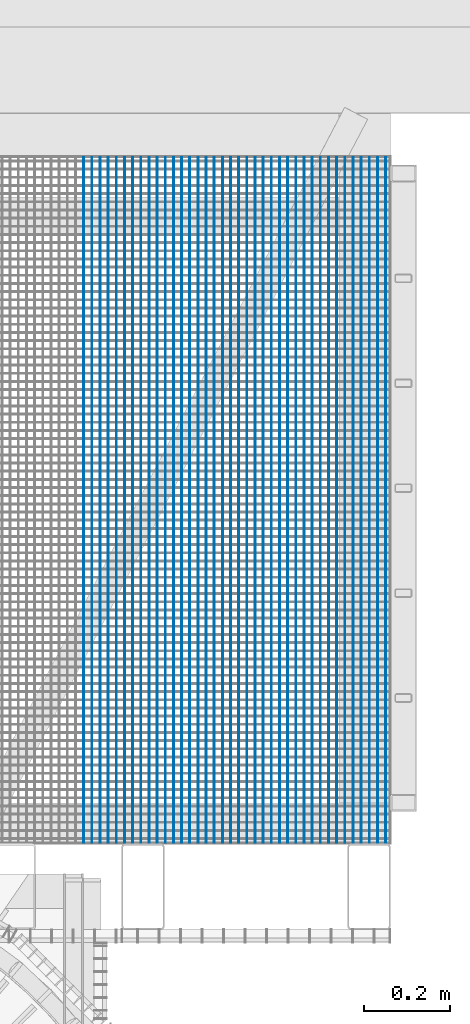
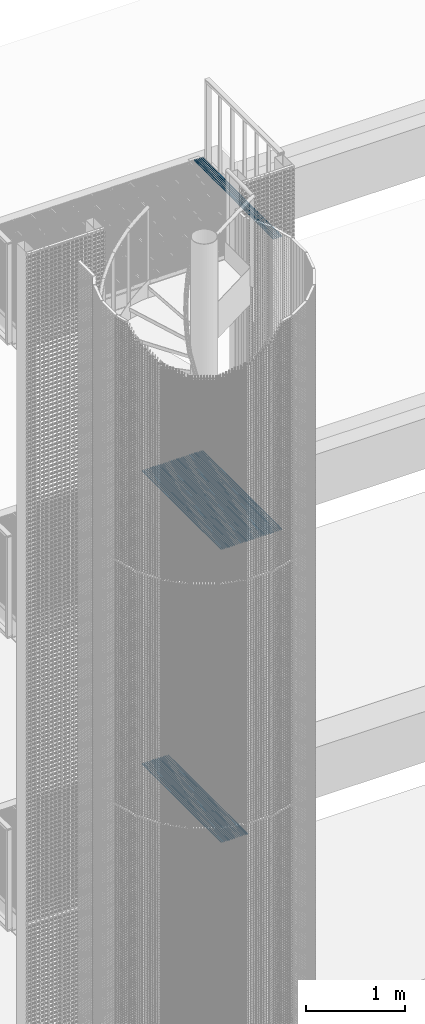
# One storey, part 101 of 1183: 61 beams, 3 elements without a shape of their own.
"""IFC2X3 building model written with IfcOpenShell, lengths in millimetres."""

from ifc_helpers import new_model, si_unit, frame, origin_with_axes, origin_2d_with_axis, place, context, subcontext, project, spatial, rectangle, extrude, material, type_object, element, aggregate, save


model = new_model("IFC2X3")

# Units and contexts
model_context = context("Model", 3, precision=1e-05, world=origin_with_axes())
body_context = subcontext(model_context, "Body", "Model", "MODEL_VIEW")
ifc_project = project(units=[si_unit("LENGTHUNIT", "METRE", prefix="MILLI"), si_unit("AREAUNIT", "SQUARE_METRE"), si_unit("VOLUMEUNIT", "CUBIC_METRE"), si_unit("MASSUNIT", "GRAM", prefix="KILO"), si_unit("TIMEUNIT", "SECOND"), si_unit("PLANEANGLEUNIT", "RADIAN"), si_unit("SOLIDANGLEUNIT", "STERADIAN"), si_unit("THERMODYNAMICTEMPERATUREUNIT", "DEGREE_CELSIUS"), si_unit("LUMINOUSINTENSITYUNIT", "LUMEN")], contexts=[model_context])

# Site, building, storey
site_placement = place(None, origin_with_axes())
site = spatial("IfcSite", under=ifc_project, at=site_placement, Name="Undefined", CompositionType="ELEMENT")
building_placement = place(site_placement, origin_with_axes())
building = spatial("IfcBuilding", under=site, at=building_placement, Name="Undefined", CompositionType="ELEMENT")
storey_placement = place(building_placement, origin_with_axes())
storey = spatial("IfcBuildingStorey", under=building, at=storey_placement, Name="Undefined", CompositionType="ELEMENT", Elevation=0.0)

# Assembly, beams
assembly_1_placement = place(storey_placement, origin_with_axes())
assembly_1 = element("IfcElementAssembly", 1, at=assembly_1_placement, inside=storey, Name="BORDURE", AssemblyPlace="NOTDEFINED", PredefinedType="NOTDEFINED")
ifc_material = material(Name="STEEL/S235JR")
beam_type = type_object("IfcBeamType", Name="PL2*10", PredefinedType="NOTDEFINED")
beam_1_placement = place(assembly_1_placement, frame((23044.1154247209, 1102.00942639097, 17285.0), z_axis=(0.0, 0.0, 1.0), x_axis=(-4.50599999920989e-06, 0.999999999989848, 0.0)))
beam_1 = element("IfcBeam", 2, at=beam_1_placement, type_object=beam_type, material=ifc_material, Name="ENTRETOISE", context=body_context, shape_type="SweptSolid", body=[
    extrude(rectangle(XDim=2.0, YDim=10.0, at=origin_2d_with_axis()), frame((1596.0000000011, -1.35186458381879e-18, -7.27595761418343e-12), z_axis=(-1.0, 0.0, 0.0), x_axis=(0.0, -1.0, 0.0)), (0.0, 0.0, 1.0), 1596.0),
])
beam_2_placement = place(assembly_1_placement, frame((23063.1154247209, 1102.00951990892, 17285.0), z_axis=(0.0, 0.0, 1.0), x_axis=(-4.50599999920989e-06, 0.999999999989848, 0.0)))
beam_2 = element("IfcBeam", 3, at=beam_2_placement, type_object=beam_type, material=ifc_material, Name="ENTRETOISE", context=body_context, shape_type="SweptSolid", body=[
    extrude(rectangle(XDim=2.0, YDim=10.0, at=origin_2d_with_axis()), frame((1596.0000000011, -1.35186458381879e-18, -7.27595761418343e-12), z_axis=(-1.0, 0.0, 0.0), x_axis=(0.0, -1.0, 0.0)), (0.0, 0.0, 1.0), 1596.0),
])
beam_3_placement = place(assembly_1_placement, frame((23082.1154247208, 1102.00961342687, 17285.0), z_axis=(0.0, 0.0, 1.0), x_axis=(-4.50599999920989e-06, 0.999999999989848, 0.0)))
beam_3 = element("IfcBeam", 4, at=beam_3_placement, type_object=beam_type, material=ifc_material, Name="ENTRETOISE", context=body_context, shape_type="SweptSolid", body=[
    extrude(rectangle(XDim=2.0, YDim=10.0, at=origin_2d_with_axis()), frame((1596.0000000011, -1.35186458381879e-18, -7.27595761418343e-12), z_axis=(-1.0, 0.0, 0.0), x_axis=(0.0, -1.0, 0.0)), (0.0, 0.0, 1.0), 1596.0),
])
beam_4_placement = place(assembly_1_placement, frame((23101.1154247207, 1102.00970694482, 17285.0), z_axis=(0.0, 0.0, 1.0), x_axis=(-4.50599999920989e-06, 0.999999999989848, 0.0)))
beam_4 = element("IfcBeam", 5, at=beam_4_placement, type_object=beam_type, material=ifc_material, Name="ENTRETOISE", context=body_context, shape_type="SweptSolid", body=[
    extrude(rectangle(XDim=2.0, YDim=10.0, at=origin_2d_with_axis()), frame((1596.0000000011, -1.35186458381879e-18, -7.27595761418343e-12), z_axis=(-1.0, 0.0, 0.0), x_axis=(0.0, -1.0, 0.0)), (0.0, 0.0, 1.0), 1596.0),
])
beam_5_placement = place(assembly_1_placement, frame((23120.1154247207, 1102.00980046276, 17285.0), z_axis=(0.0, 0.0, 1.0), x_axis=(-4.50599999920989e-06, 0.999999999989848, 0.0)))
beam_5 = element("IfcBeam", 6, at=beam_5_placement, type_object=beam_type, material=ifc_material, Name="ENTRETOISE", context=body_context, shape_type="SweptSolid", body=[
    extrude(rectangle(XDim=2.0, YDim=10.0, at=origin_2d_with_axis()), frame((1596.0000000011, -1.35186458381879e-18, -7.27595761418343e-12), z_axis=(-1.0, 0.0, 0.0), x_axis=(0.0, -1.0, 0.0)), (0.0, 0.0, 1.0), 1596.0),
])
beam_6_placement = place(assembly_1_placement, frame((23139.1154247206, 1102.00989398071, 17285.0), z_axis=(0.0, 0.0, 1.0), x_axis=(-4.50599999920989e-06, 0.999999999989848, 0.0)))
beam_6 = element("IfcBeam", 7, at=beam_6_placement, type_object=beam_type, material=ifc_material, Name="ENTRETOISE", context=body_context, shape_type="SweptSolid", body=[
    extrude(rectangle(XDim=2.0, YDim=10.0, at=origin_2d_with_axis()), frame((1596.0000000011, -1.35186458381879e-18, -7.27595761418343e-12), z_axis=(-1.0, 0.0, 0.0), x_axis=(0.0, -1.0, 0.0)), (0.0, 0.0, 1.0), 1596.0),
])
aggregate(assembly_1, [beam_1, beam_2, beam_3, beam_4, beam_5, beam_6])

assembly_2_placement = place(storey_placement, origin_with_axes())
assembly_2 = element("IfcElementAssembly", 8, at=assembly_2_placement, inside=storey, Name="BORDURE", AssemblyPlace="NOTDEFINED", PredefinedType="NOTDEFINED")
beam_7_placement = place(assembly_2_placement, frame((22436.1154247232, 1102.00643381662, 13685.0), z_axis=(0.0, 0.0, 1.0), x_axis=(-4.50599999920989e-06, 0.999999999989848, 0.0)))
beam_7 = element("IfcBeam", 9, at=beam_7_placement, type_object=beam_type, material=ifc_material, Name="ENTRETOISE", context=body_context, shape_type="SweptSolid", body=[
    extrude(rectangle(XDim=2.0, YDim=10.0, at=origin_2d_with_axis()), frame((1596.0000000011, -1.35186458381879e-18, -7.27595761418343e-12), z_axis=(-1.0, 0.0, 0.0), x_axis=(0.0, -1.0, 0.0)), (0.0, 0.0, 1.0), 1596.0),
])
beam_8_placement = place(assembly_2_placement, frame((22455.1154247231, 1102.00652733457, 13685.0), z_axis=(0.0, 0.0, 1.0), x_axis=(-4.50599999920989e-06, 0.999999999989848, 0.0)))
beam_8 = element("IfcBeam", 10, at=beam_8_placement, type_object=beam_type, material=ifc_material, Name="ENTRETOISE", context=body_context, shape_type="SweptSolid", body=[
    extrude(rectangle(XDim=2.0, YDim=10.0, at=origin_2d_with_axis()), frame((1596.0000000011, -1.35186458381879e-18, -7.27595761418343e-12), z_axis=(-1.0, 0.0, 0.0), x_axis=(0.0, -1.0, 0.0)), (0.0, 0.0, 1.0), 1596.0),
])
beam_9_placement = place(assembly_2_placement, frame((22474.1154247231, 1102.00662085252, 13685.0), z_axis=(0.0, 0.0, 1.0), x_axis=(-4.50599999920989e-06, 0.999999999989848, 0.0)))
beam_9 = element("IfcBeam", 11, at=beam_9_placement, type_object=beam_type, material=ifc_material, Name="ENTRETOISE", context=body_context, shape_type="SweptSolid", body=[
    extrude(rectangle(XDim=2.0, YDim=10.0, at=origin_2d_with_axis()), frame((1596.0000000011, -1.35186458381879e-18, -7.27595761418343e-12), z_axis=(-1.0, 0.0, 0.0), x_axis=(0.0, -1.0, 0.0)), (0.0, 0.0, 1.0), 1596.0),
])
beam_10_placement = place(assembly_2_placement, frame((22493.115424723, 1102.00671437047, 13685.0), z_axis=(0.0, 0.0, 1.0), x_axis=(-4.50599999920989e-06, 0.999999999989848, 0.0)))
beam_10 = element("IfcBeam", 12, at=beam_10_placement, type_object=beam_type, material=ifc_material, Name="ENTRETOISE", context=body_context, shape_type="SweptSolid", body=[
    extrude(rectangle(XDim=2.0, YDim=10.0, at=origin_2d_with_axis()), frame((1596.0000000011, -1.35186458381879e-18, -7.27595761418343e-12), z_axis=(-1.0, 0.0, 0.0), x_axis=(0.0, -1.0, 0.0)), (0.0, 0.0, 1.0), 1596.0),
])
beam_11_placement = place(assembly_2_placement, frame((22512.1154247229, 1102.00680788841, 13685.0), z_axis=(0.0, 0.0, 1.0), x_axis=(-4.50599999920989e-06, 0.999999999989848, 0.0)))
beam_11 = element("IfcBeam", 13, at=beam_11_placement, type_object=beam_type, material=ifc_material, Name="ENTRETOISE", context=body_context, shape_type="SweptSolid", body=[
    extrude(rectangle(XDim=2.0, YDim=10.0, at=origin_2d_with_axis()), frame((1596.0000000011, -1.35186458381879e-18, -7.27595761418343e-12), z_axis=(-1.0, 0.0, 0.0), x_axis=(0.0, -1.0, 0.0)), (0.0, 0.0, 1.0), 1596.0),
])
beam_12_placement = place(assembly_2_placement, frame((22531.1154247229, 1102.00690140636, 13685.0), z_axis=(0.0, 0.0, 1.0), x_axis=(-4.50599999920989e-06, 0.999999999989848, 0.0)))
beam_12 = element("IfcBeam", 14, at=beam_12_placement, type_object=beam_type, material=ifc_material, Name="ENTRETOISE", context=body_context, shape_type="SweptSolid", body=[
    extrude(rectangle(XDim=2.0, YDim=10.0, at=origin_2d_with_axis()), frame((1596.0000000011, -1.35186458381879e-18, -7.27595761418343e-12), z_axis=(-1.0, 0.0, 0.0), x_axis=(0.0, -1.0, 0.0)), (0.0, 0.0, 1.0), 1596.0),
])
beam_13_placement = place(assembly_2_placement, frame((22550.1154247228, 1102.00699492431, 13685.0), z_axis=(0.0, 0.0, 1.0), x_axis=(-4.50599999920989e-06, 0.999999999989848, 0.0)))
beam_13 = element("IfcBeam", 15, at=beam_13_placement, type_object=beam_type, material=ifc_material, Name="ENTRETOISE", context=body_context, shape_type="SweptSolid", body=[
    extrude(rectangle(XDim=2.0, YDim=10.0, at=origin_2d_with_axis()), frame((1596.0000000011, -1.35186458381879e-18, -7.27595761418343e-12), z_axis=(-1.0, 0.0, 0.0), x_axis=(0.0, -1.0, 0.0)), (0.0, 0.0, 1.0), 1596.0),
])
beam_14_placement = place(assembly_2_placement, frame((22569.1154247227, 1102.00708844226, 13685.0), z_axis=(0.0, 0.0, 1.0), x_axis=(-4.50599999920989e-06, 0.999999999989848, 0.0)))
beam_14 = element("IfcBeam", 16, at=beam_14_placement, type_object=beam_type, material=ifc_material, Name="ENTRETOISE", context=body_context, shape_type="SweptSolid", body=[
    extrude(rectangle(XDim=2.0, YDim=10.0, at=origin_2d_with_axis()), frame((1596.0000000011, -1.35186458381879e-18, -7.27595761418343e-12), z_axis=(-1.0, 0.0, 0.0), x_axis=(0.0, -1.0, 0.0)), (0.0, 0.0, 1.0), 1596.0),
])
beam_15_placement = place(assembly_2_placement, frame((22588.1154247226, 1102.00718196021, 13685.0), z_axis=(0.0, 0.0, 1.0), x_axis=(-4.50599999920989e-06, 0.999999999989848, 0.0)))
beam_15 = element("IfcBeam", 17, at=beam_15_placement, type_object=beam_type, material=ifc_material, Name="ENTRETOISE", context=body_context, shape_type="SweptSolid", body=[
    extrude(rectangle(XDim=2.0, YDim=10.0, at=origin_2d_with_axis()), frame((1596.0000000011, -1.35186458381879e-18, -7.27595761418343e-12), z_axis=(-1.0, 0.0, 0.0), x_axis=(0.0, -1.0, 0.0)), (0.0, 0.0, 1.0), 1596.0),
])
beam_16_placement = place(assembly_2_placement, frame((22607.1154247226, 1102.00727547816, 13685.0), z_axis=(0.0, 0.0, 1.0), x_axis=(-4.50599999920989e-06, 0.999999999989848, 0.0)))
beam_16 = element("IfcBeam", 18, at=beam_16_placement, type_object=beam_type, material=ifc_material, Name="ENTRETOISE", context=body_context, shape_type="SweptSolid", body=[
    extrude(rectangle(XDim=2.0, YDim=10.0, at=origin_2d_with_axis()), frame((1596.0000000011, -1.35186458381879e-18, -7.27595761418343e-12), z_axis=(-1.0, 0.0, 0.0), x_axis=(0.0, -1.0, 0.0)), (0.0, 0.0, 1.0), 1596.0),
])
beam_17_placement = place(assembly_2_placement, frame((22626.1154247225, 1102.00736899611, 13685.0), z_axis=(0.0, 0.0, 1.0), x_axis=(-4.50599999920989e-06, 0.999999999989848, 0.0)))
beam_17 = element("IfcBeam", 19, at=beam_17_placement, type_object=beam_type, material=ifc_material, Name="ENTRETOISE", context=body_context, shape_type="SweptSolid", body=[
    extrude(rectangle(XDim=2.0, YDim=10.0, at=origin_2d_with_axis()), frame((1596.0000000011, -1.35186458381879e-18, -7.27595761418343e-12), z_axis=(-1.0, 0.0, 0.0), x_axis=(0.0, -1.0, 0.0)), (0.0, 0.0, 1.0), 1596.0),
])
beam_18_placement = place(assembly_2_placement, frame((22645.1154247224, 1102.00746251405, 13685.0), z_axis=(0.0, 0.0, 1.0), x_axis=(-4.50599999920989e-06, 0.999999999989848, 0.0)))
beam_18 = element("IfcBeam", 20, at=beam_18_placement, type_object=beam_type, material=ifc_material, Name="ENTRETOISE", context=body_context, shape_type="SweptSolid", body=[
    extrude(rectangle(XDim=2.0, YDim=10.0, at=origin_2d_with_axis()), frame((1596.0000000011, -1.35186458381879e-18, -7.27595761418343e-12), z_axis=(-1.0, 0.0, 0.0), x_axis=(0.0, -1.0, 0.0)), (0.0, 0.0, 1.0), 1596.0),
])
beam_19_placement = place(assembly_2_placement, frame((22664.1154247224, 1102.007556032, 13685.0), z_axis=(0.0, 0.0, 1.0), x_axis=(-4.50599999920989e-06, 0.999999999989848, 0.0)))
beam_19 = element("IfcBeam", 21, at=beam_19_placement, type_object=beam_type, material=ifc_material, Name="ENTRETOISE", context=body_context, shape_type="SweptSolid", body=[
    extrude(rectangle(XDim=2.0, YDim=10.0, at=origin_2d_with_axis()), frame((1596.0000000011, -1.35186458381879e-18, -7.27595761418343e-12), z_axis=(-1.0, 0.0, 0.0), x_axis=(0.0, -1.0, 0.0)), (0.0, 0.0, 1.0), 1596.0),
])
beam_20_placement = place(assembly_2_placement, frame((22683.1154247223, 1102.00764954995, 13685.0), z_axis=(0.0, 0.0, 1.0), x_axis=(-4.50599999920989e-06, 0.999999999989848, 0.0)))
beam_20 = element("IfcBeam", 22, at=beam_20_placement, type_object=beam_type, material=ifc_material, Name="ENTRETOISE", context=body_context, shape_type="SweptSolid", body=[
    extrude(rectangle(XDim=2.0, YDim=10.0, at=origin_2d_with_axis()), frame((1596.0000000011, -1.35186458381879e-18, -7.27595761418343e-12), z_axis=(-1.0, 0.0, 0.0), x_axis=(0.0, -1.0, 0.0)), (0.0, 0.0, 1.0), 1596.0),
])
beam_21_placement = place(assembly_2_placement, frame((22702.1154247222, 1102.0077430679, 13685.0), z_axis=(0.0, 0.0, 1.0), x_axis=(-4.50599999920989e-06, 0.999999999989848, 0.0)))
beam_21 = element("IfcBeam", 23, at=beam_21_placement, type_object=beam_type, material=ifc_material, Name="ENTRETOISE", context=body_context, shape_type="SweptSolid", body=[
    extrude(rectangle(XDim=2.0, YDim=10.0, at=origin_2d_with_axis()), frame((1596.0000000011, -1.35186458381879e-18, -7.27595761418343e-12), z_axis=(-1.0, 0.0, 0.0), x_axis=(0.0, -1.0, 0.0)), (0.0, 0.0, 1.0), 1596.0),
])
beam_22_placement = place(assembly_2_placement, frame((22721.1154247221, 1102.00783658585, 13685.0), z_axis=(0.0, 0.0, 1.0), x_axis=(-4.50599999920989e-06, 0.999999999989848, 0.0)))
beam_22 = element("IfcBeam", 24, at=beam_22_placement, type_object=beam_type, material=ifc_material, Name="ENTRETOISE", context=body_context, shape_type="SweptSolid", body=[
    extrude(rectangle(XDim=2.0, YDim=10.0, at=origin_2d_with_axis()), frame((1596.0000000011, -1.35186458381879e-18, -7.27595761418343e-12), z_axis=(-1.0, 0.0, 0.0), x_axis=(0.0, -1.0, 0.0)), (0.0, 0.0, 1.0), 1596.0),
])
beam_23_placement = place(assembly_2_placement, frame((22740.1154247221, 1102.0079301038, 13685.0), z_axis=(0.0, 0.0, 1.0), x_axis=(-4.50599999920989e-06, 0.999999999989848, 0.0)))
beam_23 = element("IfcBeam", 25, at=beam_23_placement, type_object=beam_type, material=ifc_material, Name="ENTRETOISE", context=body_context, shape_type="SweptSolid", body=[
    extrude(rectangle(XDim=2.0, YDim=10.0, at=origin_2d_with_axis()), frame((1596.0000000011, -1.35186458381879e-18, -7.27595761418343e-12), z_axis=(-1.0, 0.0, 0.0), x_axis=(0.0, -1.0, 0.0)), (0.0, 0.0, 1.0), 1596.0),
])
beam_24_placement = place(assembly_2_placement, frame((22759.115424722, 1102.00802362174, 13685.0), z_axis=(0.0, 0.0, 1.0), x_axis=(-4.50599999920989e-06, 0.999999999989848, 0.0)))
beam_24 = element("IfcBeam", 26, at=beam_24_placement, type_object=beam_type, material=ifc_material, Name="ENTRETOISE", context=body_context, shape_type="SweptSolid", body=[
    extrude(rectangle(XDim=2.0, YDim=10.0, at=origin_2d_with_axis()), frame((1596.0000000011, -1.35186458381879e-18, -7.27595761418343e-12), z_axis=(-1.0, 0.0, 0.0), x_axis=(0.0, -1.0, 0.0)), (0.0, 0.0, 1.0), 1596.0),
])
beam_25_placement = place(assembly_2_placement, frame((22778.1154247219, 1102.00811713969, 13685.0), z_axis=(0.0, 0.0, 1.0), x_axis=(-4.50599999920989e-06, 0.999999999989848, 0.0)))
beam_25 = element("IfcBeam", 27, at=beam_25_placement, type_object=beam_type, material=ifc_material, Name="ENTRETOISE", context=body_context, shape_type="SweptSolid", body=[
    extrude(rectangle(XDim=2.0, YDim=10.0, at=origin_2d_with_axis()), frame((1596.0000000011, -1.35186458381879e-18, -7.27595761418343e-12), z_axis=(-1.0, 0.0, 0.0), x_axis=(0.0, -1.0, 0.0)), (0.0, 0.0, 1.0), 1596.0),
])
beam_26_placement = place(assembly_2_placement, frame((22797.1154247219, 1102.00821065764, 13685.0), z_axis=(0.0, 0.0, 1.0), x_axis=(-4.50599999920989e-06, 0.999999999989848, 0.0)))
beam_26 = element("IfcBeam", 28, at=beam_26_placement, type_object=beam_type, material=ifc_material, Name="ENTRETOISE", context=body_context, shape_type="SweptSolid", body=[
    extrude(rectangle(XDim=2.0, YDim=10.0, at=origin_2d_with_axis()), frame((1596.0000000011, -1.35186458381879e-18, -7.27595761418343e-12), z_axis=(-1.0, 0.0, 0.0), x_axis=(0.0, -1.0, 0.0)), (0.0, 0.0, 1.0), 1596.0),
])
beam_27_placement = place(assembly_2_placement, frame((22816.1154247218, 1102.00830417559, 13685.0), z_axis=(0.0, 0.0, 1.0), x_axis=(-4.50599999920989e-06, 0.999999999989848, 0.0)))
beam_27 = element("IfcBeam", 29, at=beam_27_placement, type_object=beam_type, material=ifc_material, Name="ENTRETOISE", context=body_context, shape_type="SweptSolid", body=[
    extrude(rectangle(XDim=2.0, YDim=10.0, at=origin_2d_with_axis()), frame((1596.0000000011, -1.35186458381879e-18, -7.27595761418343e-12), z_axis=(-1.0, 0.0, 0.0), x_axis=(0.0, -1.0, 0.0)), (0.0, 0.0, 1.0), 1596.0),
])
beam_28_placement = place(assembly_2_placement, frame((22835.1154247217, 1102.00839769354, 13685.0), z_axis=(0.0, 0.0, 1.0), x_axis=(-4.50599999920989e-06, 0.999999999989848, 0.0)))
beam_28 = element("IfcBeam", 30, at=beam_28_placement, type_object=beam_type, material=ifc_material, Name="ENTRETOISE", context=body_context, shape_type="SweptSolid", body=[
    extrude(rectangle(XDim=2.0, YDim=10.0, at=origin_2d_with_axis()), frame((1596.0000000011, -1.35186458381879e-18, -7.27595761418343e-12), z_axis=(-1.0, 0.0, 0.0), x_axis=(0.0, -1.0, 0.0)), (0.0, 0.0, 1.0), 1596.0),
])
beam_29_placement = place(assembly_2_placement, frame((22854.1154247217, 1102.00849121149, 13685.0), z_axis=(0.0, 0.0, 1.0), x_axis=(-4.50599999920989e-06, 0.999999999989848, 0.0)))
beam_29 = element("IfcBeam", 31, at=beam_29_placement, type_object=beam_type, material=ifc_material, Name="ENTRETOISE", context=body_context, shape_type="SweptSolid", body=[
    extrude(rectangle(XDim=2.0, YDim=10.0, at=origin_2d_with_axis()), frame((1596.0000000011, -1.35186458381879e-18, -7.27595761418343e-12), z_axis=(-1.0, 0.0, 0.0), x_axis=(0.0, -1.0, 0.0)), (0.0, 0.0, 1.0), 1596.0),
])
beam_30_placement = place(assembly_2_placement, frame((22873.1154247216, 1102.00858472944, 13685.0), z_axis=(0.0, 0.0, 1.0), x_axis=(-4.50599999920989e-06, 0.999999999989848, 0.0)))
beam_30 = element("IfcBeam", 32, at=beam_30_placement, type_object=beam_type, material=ifc_material, Name="ENTRETOISE", context=body_context, shape_type="SweptSolid", body=[
    extrude(rectangle(XDim=2.0, YDim=10.0, at=origin_2d_with_axis()), frame((1596.0000000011, -1.35186458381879e-18, -7.27595761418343e-12), z_axis=(-1.0, 0.0, 0.0), x_axis=(0.0, -1.0, 0.0)), (0.0, 0.0, 1.0), 1596.0),
])
beam_31_placement = place(assembly_2_placement, frame((22892.1154247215, 1102.00867824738, 13685.0), z_axis=(0.0, 0.0, 1.0), x_axis=(-4.50599999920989e-06, 0.999999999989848, 0.0)))
beam_31 = element("IfcBeam", 33, at=beam_31_placement, type_object=beam_type, material=ifc_material, Name="ENTRETOISE", context=body_context, shape_type="SweptSolid", body=[
    extrude(rectangle(XDim=2.0, YDim=10.0, at=origin_2d_with_axis()), frame((1596.0000000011, -1.35186458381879e-18, -7.27595761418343e-12), z_axis=(-1.0, 0.0, 0.0), x_axis=(0.0, -1.0, 0.0)), (0.0, 0.0, 1.0), 1596.0),
])
beam_32_placement = place(assembly_2_placement, frame((22911.1154247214, 1102.00877176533, 13685.0), z_axis=(0.0, 0.0, 1.0), x_axis=(-4.50599999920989e-06, 0.999999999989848, 0.0)))
beam_32 = element("IfcBeam", 34, at=beam_32_placement, type_object=beam_type, material=ifc_material, Name="ENTRETOISE", context=body_context, shape_type="SweptSolid", body=[
    extrude(rectangle(XDim=2.0, YDim=10.0, at=origin_2d_with_axis()), frame((1596.0000000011, -1.35186458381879e-18, -7.27595761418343e-12), z_axis=(-1.0, 0.0, 0.0), x_axis=(0.0, -1.0, 0.0)), (0.0, 0.0, 1.0), 1596.0),
])
beam_33_placement = place(assembly_2_placement, frame((22930.1154247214, 1102.00886528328, 13685.0), z_axis=(0.0, 0.0, 1.0), x_axis=(-4.50599999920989e-06, 0.999999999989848, 0.0)))
beam_33 = element("IfcBeam", 35, at=beam_33_placement, type_object=beam_type, material=ifc_material, Name="ENTRETOISE", context=body_context, shape_type="SweptSolid", body=[
    extrude(rectangle(XDim=2.0, YDim=10.0, at=origin_2d_with_axis()), frame((1596.0000000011, -1.35186458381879e-18, -7.27595761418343e-12), z_axis=(-1.0, 0.0, 0.0), x_axis=(0.0, -1.0, 0.0)), (0.0, 0.0, 1.0), 1596.0),
])
beam_34_placement = place(assembly_2_placement, frame((22949.1154247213, 1102.00895880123, 13685.0), z_axis=(0.0, 0.0, 1.0), x_axis=(-4.50599999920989e-06, 0.999999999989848, 0.0)))
beam_34 = element("IfcBeam", 36, at=beam_34_placement, type_object=beam_type, material=ifc_material, Name="ENTRETOISE", context=body_context, shape_type="SweptSolid", body=[
    extrude(rectangle(XDim=2.0, YDim=10.0, at=origin_2d_with_axis()), frame((1596.0000000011, -1.35186458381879e-18, -7.27595761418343e-12), z_axis=(-1.0, 0.0, 0.0), x_axis=(0.0, -1.0, 0.0)), (0.0, 0.0, 1.0), 1596.0),
])
beam_35_placement = place(assembly_2_placement, frame((22968.1154247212, 1102.00905231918, 13685.0), z_axis=(0.0, 0.0, 1.0), x_axis=(-4.50599999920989e-06, 0.999999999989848, 0.0)))
beam_35 = element("IfcBeam", 37, at=beam_35_placement, type_object=beam_type, material=ifc_material, Name="ENTRETOISE", context=body_context, shape_type="SweptSolid", body=[
    extrude(rectangle(XDim=2.0, YDim=10.0, at=origin_2d_with_axis()), frame((1596.0000000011, -1.35186458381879e-18, -7.27595761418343e-12), z_axis=(-1.0, 0.0, 0.0), x_axis=(0.0, -1.0, 0.0)), (0.0, 0.0, 1.0), 1596.0),
])
beam_36_placement = place(assembly_2_placement, frame((22987.1154247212, 1102.00914583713, 13685.0), z_axis=(0.0, 0.0, 1.0), x_axis=(-4.50599999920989e-06, 0.999999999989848, 0.0)))
beam_36 = element("IfcBeam", 38, at=beam_36_placement, type_object=beam_type, material=ifc_material, Name="ENTRETOISE", context=body_context, shape_type="SweptSolid", body=[
    extrude(rectangle(XDim=2.0, YDim=10.0, at=origin_2d_with_axis()), frame((1596.0000000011, -1.35186458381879e-18, -7.27595761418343e-12), z_axis=(-1.0, 0.0, 0.0), x_axis=(0.0, -1.0, 0.0)), (0.0, 0.0, 1.0), 1596.0),
])
beam_37_placement = place(assembly_2_placement, frame((23006.1154247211, 1102.00923935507, 13685.0), z_axis=(0.0, 0.0, 1.0), x_axis=(-4.50599999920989e-06, 0.999999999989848, 0.0)))
beam_37 = element("IfcBeam", 39, at=beam_37_placement, type_object=beam_type, material=ifc_material, Name="ENTRETOISE", context=body_context, shape_type="SweptSolid", body=[
    extrude(rectangle(XDim=2.0, YDim=10.0, at=origin_2d_with_axis()), frame((1596.0000000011, -1.35186458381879e-18, -7.27595761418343e-12), z_axis=(-1.0, 0.0, 0.0), x_axis=(0.0, -1.0, 0.0)), (0.0, 0.0, 1.0), 1596.0),
])
beam_38_placement = place(assembly_2_placement, frame((23025.115424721, 1102.00933287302, 13685.0), z_axis=(0.0, 0.0, 1.0), x_axis=(-4.50599999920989e-06, 0.999999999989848, 0.0)))
beam_38 = element("IfcBeam", 40, at=beam_38_placement, type_object=beam_type, material=ifc_material, Name="ENTRETOISE", context=body_context, shape_type="SweptSolid", body=[
    extrude(rectangle(XDim=2.0, YDim=10.0, at=origin_2d_with_axis()), frame((1596.0000000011, -1.35186458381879e-18, -7.27595761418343e-12), z_axis=(-1.0, 0.0, 0.0), x_axis=(0.0, -1.0, 0.0)), (0.0, 0.0, 1.0), 1596.0),
])
beam_39_placement = place(assembly_2_placement, frame((23044.1154247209, 1102.00942639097, 13685.0), z_axis=(0.0, 0.0, 1.0), x_axis=(-4.50599999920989e-06, 0.999999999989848, 0.0)))
beam_39 = element("IfcBeam", 41, at=beam_39_placement, type_object=beam_type, material=ifc_material, Name="ENTRETOISE", context=body_context, shape_type="SweptSolid", body=[
    extrude(rectangle(XDim=2.0, YDim=10.0, at=origin_2d_with_axis()), frame((1596.0000000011, -1.35186458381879e-18, -7.27595761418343e-12), z_axis=(-1.0, 0.0, 0.0), x_axis=(0.0, -1.0, 0.0)), (0.0, 0.0, 1.0), 1596.0),
])
beam_40_placement = place(assembly_2_placement, frame((23063.1154247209, 1102.00951990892, 13685.0), z_axis=(0.0, 0.0, 1.0), x_axis=(-4.50599999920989e-06, 0.999999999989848, 0.0)))
beam_40 = element("IfcBeam", 42, at=beam_40_placement, type_object=beam_type, material=ifc_material, Name="ENTRETOISE", context=body_context, shape_type="SweptSolid", body=[
    extrude(rectangle(XDim=2.0, YDim=10.0, at=origin_2d_with_axis()), frame((1596.0000000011, -1.35186458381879e-18, -7.27595761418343e-12), z_axis=(-1.0, 0.0, 0.0), x_axis=(0.0, -1.0, 0.0)), (0.0, 0.0, 1.0), 1596.0),
])
beam_41_placement = place(assembly_2_placement, frame((23082.1154247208, 1102.00961342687, 13685.0), z_axis=(0.0, 0.0, 1.0), x_axis=(-4.50599999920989e-06, 0.999999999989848, 0.0)))
beam_41 = element("IfcBeam", 43, at=beam_41_placement, type_object=beam_type, material=ifc_material, Name="ENTRETOISE", context=body_context, shape_type="SweptSolid", body=[
    extrude(rectangle(XDim=2.0, YDim=10.0, at=origin_2d_with_axis()), frame((1596.0000000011, -1.35186458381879e-18, -7.27595761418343e-12), z_axis=(-1.0, 0.0, 0.0), x_axis=(0.0, -1.0, 0.0)), (0.0, 0.0, 1.0), 1596.0),
])
beam_42_placement = place(assembly_2_placement, frame((23101.1154247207, 1102.00970694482, 13685.0), z_axis=(0.0, 0.0, 1.0), x_axis=(-4.50599999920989e-06, 0.999999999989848, 0.0)))
beam_42 = element("IfcBeam", 44, at=beam_42_placement, type_object=beam_type, material=ifc_material, Name="ENTRETOISE", context=body_context, shape_type="SweptSolid", body=[
    extrude(rectangle(XDim=2.0, YDim=10.0, at=origin_2d_with_axis()), frame((1596.0000000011, -1.35186458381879e-18, -7.27595761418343e-12), z_axis=(-1.0, 0.0, 0.0), x_axis=(0.0, -1.0, 0.0)), (0.0, 0.0, 1.0), 1596.0),
])
beam_43_placement = place(assembly_2_placement, frame((23120.1154247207, 1102.00980046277, 13685.0), z_axis=(0.0, 0.0, 1.0), x_axis=(-4.50599999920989e-06, 0.999999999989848, 0.0)))
beam_43 = element("IfcBeam", 45, at=beam_43_placement, type_object=beam_type, material=ifc_material, Name="ENTRETOISE", context=body_context, shape_type="SweptSolid", body=[
    extrude(rectangle(XDim=2.0, YDim=10.0, at=origin_2d_with_axis()), frame((1596.0000000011, -1.35186458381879e-18, -7.27595761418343e-12), z_axis=(-1.0, 0.0, 0.0), x_axis=(0.0, -1.0, 0.0)), (0.0, 0.0, 1.0), 1596.0),
])
beam_44_placement = place(assembly_2_placement, frame((23139.1154247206, 1102.00989398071, 13685.0), z_axis=(0.0, 0.0, 1.0), x_axis=(-4.50599999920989e-06, 0.999999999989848, 0.0)))
beam_44 = element("IfcBeam", 46, at=beam_44_placement, type_object=beam_type, material=ifc_material, Name="ENTRETOISE", context=body_context, shape_type="SweptSolid", body=[
    extrude(rectangle(XDim=2.0, YDim=10.0, at=origin_2d_with_axis()), frame((1596.0000000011, -1.35186458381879e-18, -7.27595761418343e-12), z_axis=(-1.0, 0.0, 0.0), x_axis=(0.0, -1.0, 0.0)), (0.0, 0.0, 1.0), 1596.0),
])
aggregate(assembly_2, [beam_7, beam_8, beam_9, beam_10, beam_11, beam_12, beam_13, beam_14, beam_15, beam_16, beam_17, beam_18, beam_19, beam_20, beam_21, beam_22, beam_23, beam_24, beam_25, beam_26, beam_27, beam_28, beam_29, beam_30, beam_31, beam_32, beam_33, beam_34, beam_35, beam_36, beam_37, beam_38, beam_39, beam_40, beam_41, beam_42, beam_43, beam_44])

assembly_3_placement = place(storey_placement, origin_with_axes())
assembly_3 = element("IfcElementAssembly", 47, at=assembly_3_placement, inside=storey, Name="BORDURE", AssemblyPlace="NOTDEFINED", PredefinedType="NOTDEFINED")
beam_45_placement = place(assembly_3_placement, frame((22436.1154247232, 1102.00643381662, 10085.0), z_axis=(0.0, 0.0, 1.0), x_axis=(-4.50599999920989e-06, 0.999999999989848, 0.0)))
beam_45 = element("IfcBeam", 48, at=beam_45_placement, type_object=beam_type, material=ifc_material, Name="ENTRETOISE", context=body_context, shape_type="SweptSolid", body=[
    extrude(rectangle(XDim=2.0, YDim=10.0, at=origin_2d_with_axis()), frame((1596.0000000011, -1.35186458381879e-18, -7.27595761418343e-12), z_axis=(-1.0, 0.0, 0.0), x_axis=(0.0, -1.0, 0.0)), (0.0, 0.0, 1.0), 1596.0),
])
beam_46_placement = place(assembly_3_placement, frame((22455.1154247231, 1102.00652733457, 10085.0), z_axis=(0.0, 0.0, 1.0), x_axis=(-4.50599999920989e-06, 0.999999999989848, 0.0)))
beam_46 = element("IfcBeam", 49, at=beam_46_placement, type_object=beam_type, material=ifc_material, Name="ENTRETOISE", context=body_context, shape_type="SweptSolid", body=[
    extrude(rectangle(XDim=2.0, YDim=10.0, at=origin_2d_with_axis()), frame((1596.0000000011, -1.35186458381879e-18, -7.27595761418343e-12), z_axis=(-1.0, 0.0, 0.0), x_axis=(0.0, -1.0, 0.0)), (0.0, 0.0, 1.0), 1596.0),
])
beam_47_placement = place(assembly_3_placement, frame((22474.1154247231, 1102.00662085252, 10085.0), z_axis=(0.0, 0.0, 1.0), x_axis=(-4.50599999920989e-06, 0.999999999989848, 0.0)))
beam_47 = element("IfcBeam", 50, at=beam_47_placement, type_object=beam_type, material=ifc_material, Name="ENTRETOISE", context=body_context, shape_type="SweptSolid", body=[
    extrude(rectangle(XDim=2.0, YDim=10.0, at=origin_2d_with_axis()), frame((1596.0000000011, -1.35186458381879e-18, -7.27595761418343e-12), z_axis=(-1.0, 0.0, 0.0), x_axis=(0.0, -1.0, 0.0)), (0.0, 0.0, 1.0), 1596.0),
])
beam_48_placement = place(assembly_3_placement, frame((22493.115424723, 1102.00671437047, 10085.0), z_axis=(0.0, 0.0, 1.0), x_axis=(-4.50599999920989e-06, 0.999999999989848, 0.0)))
beam_48 = element("IfcBeam", 51, at=beam_48_placement, type_object=beam_type, material=ifc_material, Name="ENTRETOISE", context=body_context, shape_type="SweptSolid", body=[
    extrude(rectangle(XDim=2.0, YDim=10.0, at=origin_2d_with_axis()), frame((1596.0000000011, -1.35186458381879e-18, -7.27595761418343e-12), z_axis=(-1.0, 0.0, 0.0), x_axis=(0.0, -1.0, 0.0)), (0.0, 0.0, 1.0), 1596.0),
])
beam_49_placement = place(assembly_3_placement, frame((22512.1154247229, 1102.00680788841, 10085.0), z_axis=(0.0, 0.0, 1.0), x_axis=(-4.50599999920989e-06, 0.999999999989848, 0.0)))
beam_49 = element("IfcBeam", 52, at=beam_49_placement, type_object=beam_type, material=ifc_material, Name="ENTRETOISE", context=body_context, shape_type="SweptSolid", body=[
    extrude(rectangle(XDim=2.0, YDim=10.0, at=origin_2d_with_axis()), frame((1596.0000000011, -1.35186458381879e-18, -7.27595761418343e-12), z_axis=(-1.0, 0.0, 0.0), x_axis=(0.0, -1.0, 0.0)), (0.0, 0.0, 1.0), 1596.0),
])
beam_50_placement = place(assembly_3_placement, frame((22531.1154247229, 1102.00690140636, 10085.0), z_axis=(0.0, 0.0, 1.0), x_axis=(-4.50599999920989e-06, 0.999999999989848, 0.0)))
beam_50 = element("IfcBeam", 53, at=beam_50_placement, type_object=beam_type, material=ifc_material, Name="ENTRETOISE", context=body_context, shape_type="SweptSolid", body=[
    extrude(rectangle(XDim=2.0, YDim=10.0, at=origin_2d_with_axis()), frame((1596.0000000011, -1.35186458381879e-18, -7.27595761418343e-12), z_axis=(-1.0, 0.0, 0.0), x_axis=(0.0, -1.0, 0.0)), (0.0, 0.0, 1.0), 1596.0),
])
beam_51_placement = place(assembly_3_placement, frame((22550.1154247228, 1102.00699492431, 10085.0), z_axis=(0.0, 0.0, 1.0), x_axis=(-4.50599999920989e-06, 0.999999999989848, 0.0)))
beam_51 = element("IfcBeam", 54, at=beam_51_placement, type_object=beam_type, material=ifc_material, Name="ENTRETOISE", context=body_context, shape_type="SweptSolid", body=[
    extrude(rectangle(XDim=2.0, YDim=10.0, at=origin_2d_with_axis()), frame((1596.0000000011, -1.35186458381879e-18, -7.27595761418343e-12), z_axis=(-1.0, 0.0, 0.0), x_axis=(0.0, -1.0, 0.0)), (0.0, 0.0, 1.0), 1596.0),
])
beam_52_placement = place(assembly_3_placement, frame((22569.1154247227, 1102.00708844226, 10085.0), z_axis=(0.0, 0.0, 1.0), x_axis=(-4.50599999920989e-06, 0.999999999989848, 0.0)))
beam_52 = element("IfcBeam", 55, at=beam_52_placement, type_object=beam_type, material=ifc_material, Name="ENTRETOISE", context=body_context, shape_type="SweptSolid", body=[
    extrude(rectangle(XDim=2.0, YDim=10.0, at=origin_2d_with_axis()), frame((1596.0000000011, -1.35186458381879e-18, -7.27595761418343e-12), z_axis=(-1.0, 0.0, 0.0), x_axis=(0.0, -1.0, 0.0)), (0.0, 0.0, 1.0), 1596.0),
])
beam_53_placement = place(assembly_3_placement, frame((22588.1154247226, 1102.00718196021, 10085.0), z_axis=(0.0, 0.0, 1.0), x_axis=(-4.50599999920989e-06, 0.999999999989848, 0.0)))
beam_53 = element("IfcBeam", 56, at=beam_53_placement, type_object=beam_type, material=ifc_material, Name="ENTRETOISE", context=body_context, shape_type="SweptSolid", body=[
    extrude(rectangle(XDim=2.0, YDim=10.0, at=origin_2d_with_axis()), frame((1596.0000000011, -1.35186458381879e-18, -7.27595761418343e-12), z_axis=(-1.0, 0.0, 0.0), x_axis=(0.0, -1.0, 0.0)), (0.0, 0.0, 1.0), 1596.0),
])
beam_54_placement = place(assembly_3_placement, frame((22607.1154247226, 1102.00727547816, 10085.0), z_axis=(0.0, 0.0, 1.0), x_axis=(-4.50599999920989e-06, 0.999999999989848, 0.0)))
beam_54 = element("IfcBeam", 57, at=beam_54_placement, type_object=beam_type, material=ifc_material, Name="ENTRETOISE", context=body_context, shape_type="SweptSolid", body=[
    extrude(rectangle(XDim=2.0, YDim=10.0, at=origin_2d_with_axis()), frame((1596.0000000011, -1.35186458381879e-18, -7.27595761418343e-12), z_axis=(-1.0, 0.0, 0.0), x_axis=(0.0, -1.0, 0.0)), (0.0, 0.0, 1.0), 1596.0),
])
beam_55_placement = place(assembly_3_placement, frame((22626.1154247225, 1102.0073689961, 10085.0), z_axis=(0.0, 0.0, 1.0), x_axis=(-4.50599999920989e-06, 0.999999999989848, 0.0)))
beam_55 = element("IfcBeam", 58, at=beam_55_placement, type_object=beam_type, material=ifc_material, Name="ENTRETOISE", context=body_context, shape_type="SweptSolid", body=[
    extrude(rectangle(XDim=2.0, YDim=10.0, at=origin_2d_with_axis()), frame((1596.0000000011, -1.35186458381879e-18, -7.27595761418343e-12), z_axis=(-1.0, 0.0, 0.0), x_axis=(0.0, -1.0, 0.0)), (0.0, 0.0, 1.0), 1596.0),
])
beam_56_placement = place(assembly_3_placement, frame((22645.1154247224, 1102.00746251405, 10085.0), z_axis=(0.0, 0.0, 1.0), x_axis=(-4.50599999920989e-06, 0.999999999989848, 0.0)))
beam_56 = element("IfcBeam", 59, at=beam_56_placement, type_object=beam_type, material=ifc_material, Name="ENTRETOISE", context=body_context, shape_type="SweptSolid", body=[
    extrude(rectangle(XDim=2.0, YDim=10.0, at=origin_2d_with_axis()), frame((1596.0000000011, -1.35186458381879e-18, -7.27595761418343e-12), z_axis=(-1.0, 0.0, 0.0), x_axis=(0.0, -1.0, 0.0)), (0.0, 0.0, 1.0), 1596.0),
])
beam_57_placement = place(assembly_3_placement, frame((22664.1154247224, 1102.007556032, 10085.0), z_axis=(0.0, 0.0, 1.0), x_axis=(-4.50599999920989e-06, 0.999999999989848, 0.0)))
beam_57 = element("IfcBeam", 60, at=beam_57_placement, type_object=beam_type, material=ifc_material, Name="ENTRETOISE", context=body_context, shape_type="SweptSolid", body=[
    extrude(rectangle(XDim=2.0, YDim=10.0, at=origin_2d_with_axis()), frame((1596.0000000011, -1.35186458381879e-18, -7.27595761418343e-12), z_axis=(-1.0, 0.0, 0.0), x_axis=(0.0, -1.0, 0.0)), (0.0, 0.0, 1.0), 1596.0),
])
beam_58_placement = place(assembly_3_placement, frame((22683.1154247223, 1102.00764954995, 10085.0), z_axis=(0.0, 0.0, 1.0), x_axis=(-4.50599999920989e-06, 0.999999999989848, 0.0)))
beam_58 = element("IfcBeam", 61, at=beam_58_placement, type_object=beam_type, material=ifc_material, Name="ENTRETOISE", context=body_context, shape_type="SweptSolid", body=[
    extrude(rectangle(XDim=2.0, YDim=10.0, at=origin_2d_with_axis()), frame((1596.0000000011, -1.35186458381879e-18, -7.27595761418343e-12), z_axis=(-1.0, 0.0, 0.0), x_axis=(0.0, -1.0, 0.0)), (0.0, 0.0, 1.0), 1596.0),
])
beam_59_placement = place(assembly_3_placement, frame((22702.1154247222, 1102.0077430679, 10085.0), z_axis=(0.0, 0.0, 1.0), x_axis=(-4.50599999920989e-06, 0.999999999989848, 0.0)))
beam_59 = element("IfcBeam", 62, at=beam_59_placement, type_object=beam_type, material=ifc_material, Name="ENTRETOISE", context=body_context, shape_type="SweptSolid", body=[
    extrude(rectangle(XDim=2.0, YDim=10.0, at=origin_2d_with_axis()), frame((1596.0000000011, -1.35186458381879e-18, -7.27595761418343e-12), z_axis=(-1.0, 0.0, 0.0), x_axis=(0.0, -1.0, 0.0)), (0.0, 0.0, 1.0), 1596.0),
])
beam_60_placement = place(assembly_3_placement, frame((22721.1154247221, 1102.00783658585, 10085.0), z_axis=(0.0, 0.0, 1.0), x_axis=(-4.50599999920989e-06, 0.999999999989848, 0.0)))
beam_60 = element("IfcBeam", 63, at=beam_60_placement, type_object=beam_type, material=ifc_material, Name="ENTRETOISE", context=body_context, shape_type="SweptSolid", body=[
    extrude(rectangle(XDim=2.0, YDim=10.0, at=origin_2d_with_axis()), frame((1596.0000000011, -1.35186458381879e-18, -7.27595761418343e-12), z_axis=(-1.0, 0.0, 0.0), x_axis=(0.0, -1.0, 0.0)), (0.0, 0.0, 1.0), 1596.0),
])
beam_61_placement = place(assembly_3_placement, frame((22740.1154247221, 1102.0079301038, 10085.0), z_axis=(0.0, 0.0, 1.0), x_axis=(-4.50599999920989e-06, 0.999999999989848, 0.0)))
beam_61 = element("IfcBeam", 64, at=beam_61_placement, type_object=beam_type, material=ifc_material, Name="ENTRETOISE", context=body_context, shape_type="SweptSolid", body=[
    extrude(rectangle(XDim=2.0, YDim=10.0, at=origin_2d_with_axis()), frame((1596.0000000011, -1.35186458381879e-18, -7.27595761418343e-12), z_axis=(-1.0, 0.0, 0.0), x_axis=(0.0, -1.0, 0.0)), (0.0, 0.0, 1.0), 1596.0),
])
aggregate(assembly_3, [beam_45, beam_46, beam_47, beam_48, beam_49, beam_50, beam_51, beam_52, beam_53, beam_54, beam_55, beam_56, beam_57, beam_58, beam_59, beam_60, beam_61])

save(model, "model.ifc")
